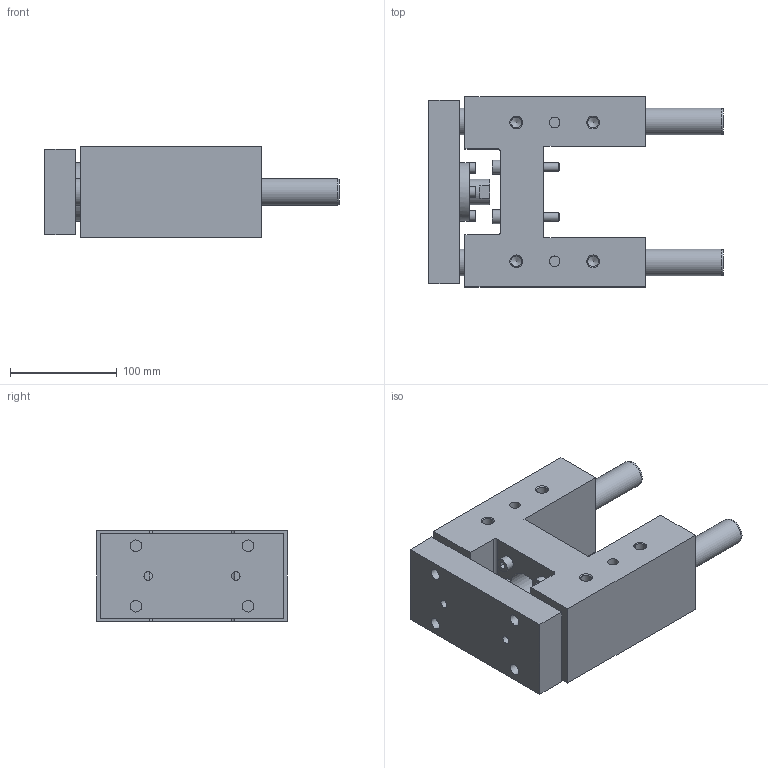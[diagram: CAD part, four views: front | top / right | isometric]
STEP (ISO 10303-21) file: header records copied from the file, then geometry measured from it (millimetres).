
FILE_DESCRIPTION( ( 'STEP AP214' ), '1' );
FILE_NAME( 'U:/Etudes/Top Solid/BIBLIO 3D AVM/TOP/PNEUMATIQUE/GUIDAGES/Type 32 (en H)/R_Renforcée/326R0_30.step', '2005-05-27T08:59:45', ( ' ' ), ( ' ' ), 'XStep 1.0', ' ', ' ' );
FILE_SCHEMA( ( 'automotive_design' ) );
Length unit declared in the file: metre
Products named in the file (2): 1; 2
Bounding box: 276 x 178 x 85 mm (x, y, z)
Volume: 2052663 mm3; surface area: 258724.2 mm2
Topology: 2 solids, 7 shells, 209 faces, 484 edges, 321 vertices
Faces by surface type: plane 118, cylinder 70, cone 21
Full cylindrical faces by diameter (mm): 6 x8, 6.5 x4, 8 x10, 8.376 x4, 9 x4, 10 x6, 10.106 x8, 11 x4, 13 x4, 14.376 x2, 18 x4, 24 x1, 25 x4, 26 x1, 34 x1, 37 x1, 40 x1, 55 x1
Entity records: 7089 total; most frequent: CARTESIAN_POINT 1103, DIRECTION 900, ORIENTED_EDGE 696, EDGE_LOOP 358, AXIS2_PLACEMENT_3D 349, EDGE_CURVE 348, VERTEX_POINT 280, FACE_OUTER_BOUND 277
